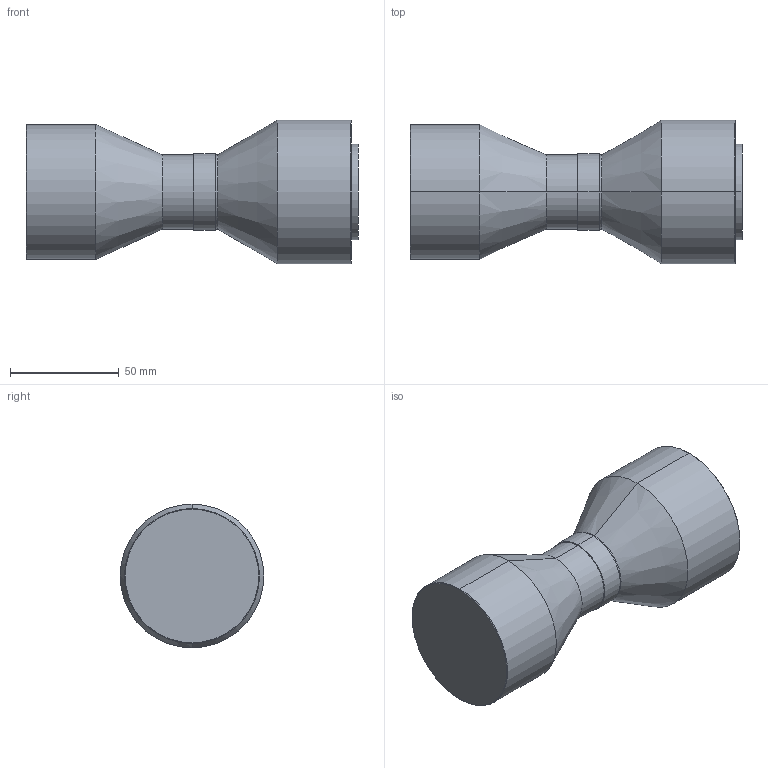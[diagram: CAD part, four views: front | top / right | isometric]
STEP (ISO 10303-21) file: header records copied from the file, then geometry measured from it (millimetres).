
FILE_DESCRIPTION (( 'STEP AP203' ), '1' );
FILE_NAME ('DTCM430-42-AL.STEP', '2019-11-25T06:10:42', ( 'Windows 蚚誧' ), ( '' ), 'SwSTEP 2.0', 'SolidWorks 2017', '' );
FILE_SCHEMA (( 'CONFIG_CONTROL_DESIGN' ));
Length unit declared in the file: millimetre
Products named in the file (1): DTCM430-42-AL
Bounding box: 152.5 x 66 x 66 mm (x, y, z)
Volume: 353954.6 mm3; surface area: 32994.6 mm2
Topology: 1 solids, 1 shells, 25 faces, 48 edges, 28 vertices
Faces by surface type: cylinder 12, cone 8, plane 5
Entity records: 711 total; most frequent: DIRECTION 128, CARTESIAN_POINT 102, ORIENTED_EDGE 96, AXIS2_PLACEMENT_3D 54, EDGE_CURVE 48, CIRCLE 28, EDGE_LOOP 28, VERTEX_POINT 28
